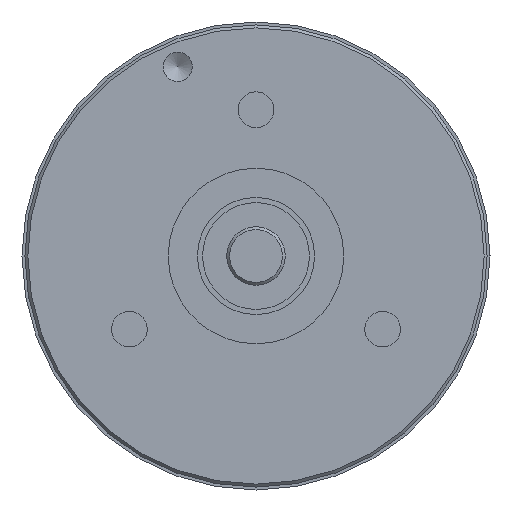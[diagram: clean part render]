
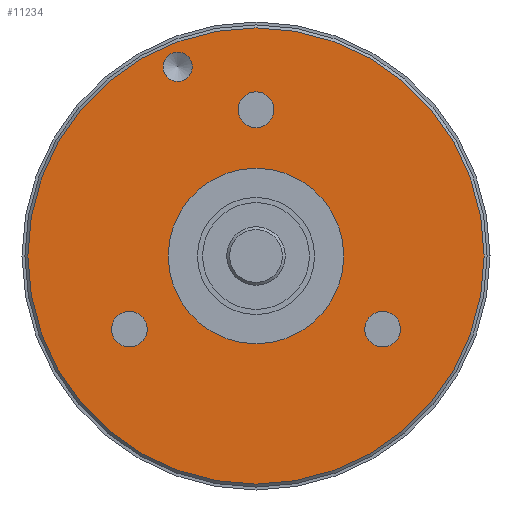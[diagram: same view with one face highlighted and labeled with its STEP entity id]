
A CAD part, left-side view. The second image highlights one B-rep face of the part: STEP entity #11234.
In plain terms, the highlighted planar face has unit normal (-1, 0, 0).
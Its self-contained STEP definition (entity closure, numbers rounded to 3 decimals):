
#320=FACE_BOUND('',#1832,.T.);
#321=FACE_BOUND('',#1833,.T.);
#322=FACE_BOUND('',#1834,.T.);
#323=FACE_BOUND('',#1835,.T.);
#324=FACE_BOUND('',#1836,.T.);
#625=PLANE('',#12361);
#1204=FACE_OUTER_BOUND('',#1831,.T.);
#1831=EDGE_LOOP('',(#9778));
#1832=EDGE_LOOP('',(#9779,#9780));
#1833=EDGE_LOOP('',(#9781,#9782));
#1834=EDGE_LOOP('',(#9783,#9784));
#1835=EDGE_LOOP('',(#9785,#9786));
#1836=EDGE_LOOP('',(#9787));
#4023=CIRCLE('',#12328,0.611);
#4024=CIRCLE('',#12329,0.611);
#4026=CIRCLE('',#12332,0.611);
#4027=CIRCLE('',#12333,0.611);
#4029=CIRCLE('',#12336,0.611);
#4030=CIRCLE('',#12337,0.611);
#4038=CIRCLE('',#12349,3.);
#4039=CIRCLE('',#12350,3.);
#4041=CIRCLE('',#12353,7.8);
#4045=CIRCLE('',#12360,0.5);
#5065=VERTEX_POINT('',#19416);
#5066=VERTEX_POINT('',#19417);
#5068=VERTEX_POINT('',#19424);
#5069=VERTEX_POINT('',#19425);
#5071=VERTEX_POINT('',#19432);
#5072=VERTEX_POINT('',#19433);
#5080=VERTEX_POINT('',#19458);
#5081=VERTEX_POINT('',#19459);
#5083=VERTEX_POINT('',#19466);
#5088=VERTEX_POINT('',#19481);
#6626=EDGE_CURVE('',#5065,#5066,#4023,.T.);
#6627=EDGE_CURVE('',#5066,#5065,#4024,.T.);
#6630=EDGE_CURVE('',#5068,#5069,#4026,.T.);
#6631=EDGE_CURVE('',#5069,#5068,#4027,.T.);
#6634=EDGE_CURVE('',#5071,#5072,#4029,.T.);
#6635=EDGE_CURVE('',#5072,#5071,#4030,.T.);
#6647=EDGE_CURVE('',#5080,#5081,#4038,.T.);
#6648=EDGE_CURVE('',#5081,#5080,#4039,.T.);
#6652=EDGE_CURVE('',#5083,#5083,#4041,.T.);
#6658=EDGE_CURVE('',#5088,#5088,#4045,.T.);
#9778=ORIENTED_EDGE('',*,*,#6652,.T.);
#9779=ORIENTED_EDGE('',*,*,#6626,.T.);
#9780=ORIENTED_EDGE('',*,*,#6627,.T.);
#9781=ORIENTED_EDGE('',*,*,#6630,.T.);
#9782=ORIENTED_EDGE('',*,*,#6631,.T.);
#9783=ORIENTED_EDGE('',*,*,#6634,.T.);
#9784=ORIENTED_EDGE('',*,*,#6635,.T.);
#9785=ORIENTED_EDGE('',*,*,#6647,.T.);
#9786=ORIENTED_EDGE('',*,*,#6648,.T.);
#9787=ORIENTED_EDGE('',*,*,#6658,.T.);
#11234=ADVANCED_FACE('',(#1204,#320,#321,#322,#323,#324),#625,.T.);
#12328=AXIS2_PLACEMENT_3D('',#19418,#15301,#15302);
#12329=AXIS2_PLACEMENT_3D('',#19419,#15303,#15304);
#12332=AXIS2_PLACEMENT_3D('',#19426,#15310,#15311);
#12333=AXIS2_PLACEMENT_3D('',#19427,#15312,#15313);
#12336=AXIS2_PLACEMENT_3D('',#19434,#15319,#15320);
#12337=AXIS2_PLACEMENT_3D('',#19435,#15321,#15322);
#12349=AXIS2_PLACEMENT_3D('',#19460,#15349,#15350);
#12350=AXIS2_PLACEMENT_3D('',#19461,#15351,#15352);
#12353=AXIS2_PLACEMENT_3D('',#19468,#15359,#15360);
#12360=AXIS2_PLACEMENT_3D('',#19482,#15375,#15376);
#12361=AXIS2_PLACEMENT_3D('',#19484,#15378,#15379);
#15301=DIRECTION('center_axis',(1.,0.,0.));
#15302=DIRECTION('ref_axis',(0.,0.866,-0.5));
#15303=DIRECTION('center_axis',(1.,0.,0.));
#15304=DIRECTION('ref_axis',(0.,0.866,-0.5));
#15310=DIRECTION('center_axis',(1.,0.,0.));
#15311=DIRECTION('ref_axis',(0.,-0.866,-0.5));
#15312=DIRECTION('center_axis',(1.,0.,0.));
#15313=DIRECTION('ref_axis',(0.,-0.866,-0.5));
#15319=DIRECTION('center_axis',(1.,0.,0.));
#15320=DIRECTION('ref_axis',(0.,0.,1.));
#15321=DIRECTION('center_axis',(1.,0.,0.));
#15322=DIRECTION('ref_axis',(0.,0.,1.));
#15349=DIRECTION('center_axis',(1.,0.,0.));
#15350=DIRECTION('ref_axis',(0.,0.,1.));
#15351=DIRECTION('center_axis',(1.,0.,0.));
#15352=DIRECTION('ref_axis',(0.,0.,1.));
#15359=DIRECTION('center_axis',(-1.,0.,0.));
#15360=DIRECTION('ref_axis',(0.,0.,1.));
#15375=DIRECTION('center_axis',(1.,0.,0.));
#15376=DIRECTION('ref_axis',(0.,0.383,0.924));
#15378=DIRECTION('center_axis',(-1.,0.,0.));
#15379=DIRECTION('ref_axis',(0.,0.,-1.));
#19416=CARTESIAN_POINT('',(0.,4.859,-2.805));
#19417=CARTESIAN_POINT('',(0.,3.801,-2.195));
#19418=CARTESIAN_POINT('Origin',(0.,4.33,-2.5));
#19419=CARTESIAN_POINT('Origin',(0.,4.33,-2.5));
#19424=CARTESIAN_POINT('',(0.,-4.859,-2.805));
#19425=CARTESIAN_POINT('',(0.,-3.801,-2.195));
#19426=CARTESIAN_POINT('Origin',(0.,-4.33,-2.5));
#19427=CARTESIAN_POINT('Origin',(0.,-4.33,-2.5));
#19432=CARTESIAN_POINT('',(0.,0.,5.611));
#19433=CARTESIAN_POINT('',(0.,0.,4.39));
#19434=CARTESIAN_POINT('Origin',(0.,0.,5.));
#19435=CARTESIAN_POINT('Origin',(0.,0.,5.));
#19458=CARTESIAN_POINT('',(0.,0.,3.));
#19459=CARTESIAN_POINT('',(0.,0.,-3.));
#19460=CARTESIAN_POINT('Origin',(0.,0.,0.));
#19461=CARTESIAN_POINT('Origin',(0.,0.,0.));
#19466=CARTESIAN_POINT('',(0.,0.,-7.8));
#19468=CARTESIAN_POINT('Origin',(0.,0.,0.));
#19481=CARTESIAN_POINT('',(0.,2.487,6.005));
#19482=CARTESIAN_POINT('Origin',(0.,2.679,6.467));
#19484=CARTESIAN_POINT('Origin',(0.,0.,5.45));
